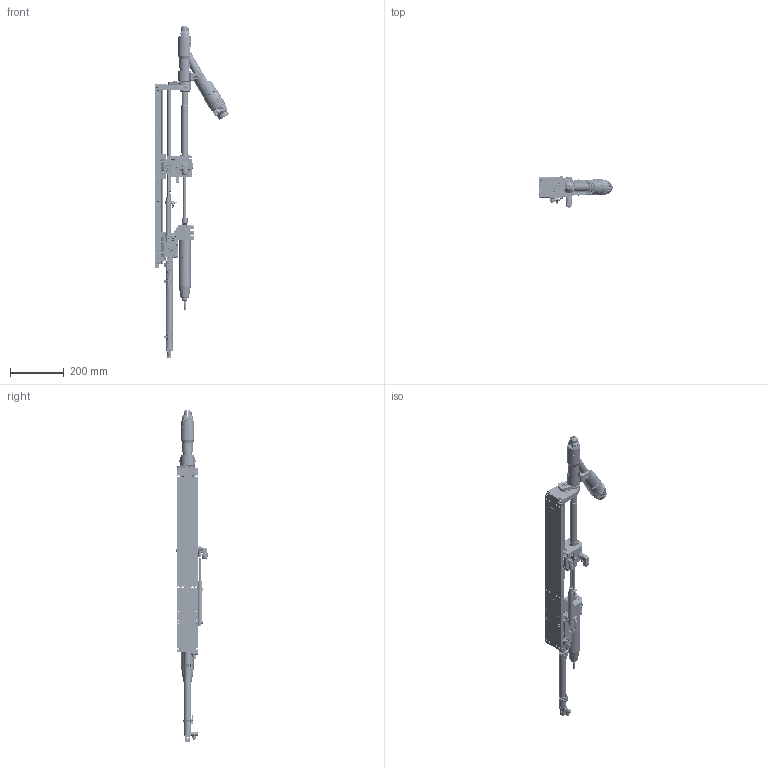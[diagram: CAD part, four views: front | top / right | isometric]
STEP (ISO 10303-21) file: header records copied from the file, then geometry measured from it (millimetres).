
FILE_DESCRIPTION(/* description */ ('© Copyright 2019 – Urheberrechtshinweis Diese CAD-Daten sind urheberrechtlich geschützt. Das Urheberrecht liegt, soweit nicht ausdrücklich anders gekennzeichnet, bei Stöger Automation GmbH. Bitte fragen Sie uns, falls Sie die CAD-Daten vervielfältigen oder','CAx-IF Rec.Pracs.---Representation and Presentation of Product Manufacturing Information (PMI)---4.0---2014-10-13'),/* implementation_level */ '2;1');
FILE_NAME(/* name */ 'N:\09_Entwicklung\09_01_Entwicklungen\09_01_01_Entwicklungsprojekte\VER0211_SEL100_Überarbeitung\Marketing\Step-Modelle\3D_Step_file_automatic_screwdriver_for_screws_SRV101.stp',/* time_stamp */ '2019-03-12T10:58:01+01:00',/* author */ ('Stöger Automation GmbH'),/* organization */ ('Stöger Automation GmbH'),/* preprocessor_version */ 'ST-DEVELOPER v17',/* originating_system */ 'Autodesk Inventor 2018',/* authorisation */ '');
FILE_SCHEMA (('AP242_MANAGED_MODEL_BASED_3D_ENGINEERING_MIM_LF { 1 0 10303 442 1 1 4 }'));
Products named in the file (1): MKT-SRV10101.ipt
Bounding box: 274.16 x 117.5 x 1240.8 mm (x, y, z)
Volume: 2990364.7 mm3; surface area: 1064762.9 mm2
Topology: 145 solids, 146 shells, 5474 faces, 14873 edges, 9950 vertices
Faces by surface type: plane 2847, cylinder 1418, bspline 615, cone 436, torus 136, sphere 22
Full cylindrical faces by diameter (mm): 1 x4, 2.5 x4, 3 x6, 3.1 x5, 3.242 x5, 3.8 x4, 4 x16, 4.1 x2, 4.134 x22, 4.2 x3, 4.4 x3, 4.9 x2, 4.917 x21, 5 x16, 6 x56, 6.1 x2, 6.2 x9, 6.4 x9, 6.5 x5, 6.6 x1, 6.647 x26, 7.8 x6, 8 x14, 8.2 x7, 8.376 x3, 8.4 x19, 8.5 x13, 8.566 x2, 9 x2, 9.2 x7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
Entity records: 334348 total; most frequent: CARTESIAN_POINT 194307, ORIENTED_EDGE 29578, DIRECTION 26134, EDGE_CURVE 14789, VERTEX_POINT 9950, AXIS2_PLACEMENT_3D 9338, LINE 7458, VECTOR 7458
